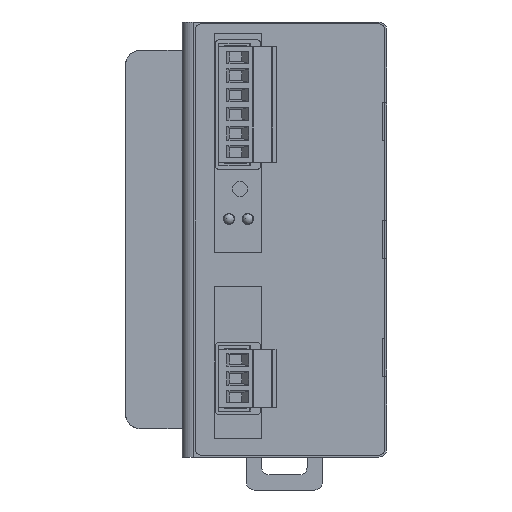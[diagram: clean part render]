
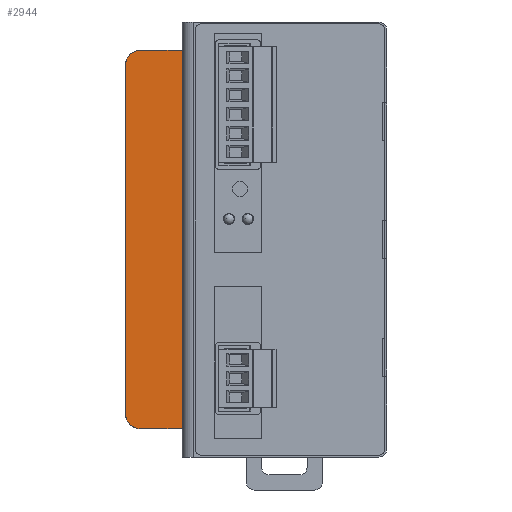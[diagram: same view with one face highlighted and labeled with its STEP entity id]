
A CAD part, left-side view. The second image highlights one B-rep face of the part: STEP entity #2944.
In plain terms, the highlighted planar face has unit normal (-1, 0, 0).
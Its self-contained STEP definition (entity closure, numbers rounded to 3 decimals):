
#2944 = ADVANCED_FACE ( 'NONE', ( #24918 ), #49078, .F. ) ;
#3006 = VERTEX_POINT ( 'NONE', #55120 ) ;
#8700 = EDGE_LOOP ( 'NONE', ( #116552, #80678, #84547, #106921, #20948, #27807 ) ) ;
#11107 = LINE ( 'NONE', #85096, #14008 ) ;
#14008 = VECTOR ( 'NONE', #94401, 1000. ) ;
#15684 = CARTESIAN_POINT ( 'NONE',  ( -55., 27., 50. ) ) ;
#18908 = EDGE_CURVE ( 'NONE', #54289, #20113, #23564, .T. ) ;
#20113 = VERTEX_POINT ( 'NONE', #88161 ) ;
#20948 = ORIENTED_EDGE ( 'NONE', *, *, #65488, .F. ) ;
#23564 = CIRCLE ( 'NONE', #69814, 4. ) ;
#24918 = FACE_OUTER_BOUND ( 'NONE', #8700, .T. ) ;
#27772 = CARTESIAN_POINT ( 'NONE',  ( -55., 42., -50. ) ) ;
#27807 = ORIENTED_EDGE ( 'NONE', *, *, #18908, .F. ) ;
#35812 = DIRECTION ( 'NONE',  ( 0., -1., 0. ) ) ;
#35915 = DIRECTION ( 'NONE',  ( 1., 0., 0. ) ) ;
#36069 = CARTESIAN_POINT ( 'NONE',  ( -55., 38., -46. ) ) ;
#37097 = DIRECTION ( 'NONE',  ( 0., -1., 0. ) ) ;
#38945 = LINE ( 'NONE', #102117, #109256 ) ;
#39995 = AXIS2_PLACEMENT_3D ( 'NONE', #50291, #50136, #50431 ) ;
#43335 = VERTEX_POINT ( 'NONE', #48060 ) ;
#44007 = DIRECTION ( 'NONE',  ( 0., 0., -1. ) ) ;
#45196 = VECTOR ( 'NONE', #37097, 1000. ) ;
#48060 = CARTESIAN_POINT ( 'NONE',  ( -55., 27., -50. ) ) ;
#49078 = PLANE ( 'NONE',  #39995 ) ;
#50136 = DIRECTION ( 'NONE',  ( 1., 0., 0. ) ) ;
#50291 = CARTESIAN_POINT ( 'NONE',  ( -55., 42., -50. ) ) ;
#50431 = DIRECTION ( 'NONE',  ( 0., 1., 0. ) ) ;
#54289 = VERTEX_POINT ( 'NONE', #102653 ) ;
#54973 = DIRECTION ( 'NONE',  ( 1., 0., 0. ) ) ;
#55120 = CARTESIAN_POINT ( 'NONE',  ( -55., 27., 50. ) ) ;
#56736 = LINE ( 'NONE', #27772, #45196 ) ;
#65488 = EDGE_CURVE ( 'NONE', #20113, #86858, #38945, .T. ) ;
#66303 = VERTEX_POINT ( 'NONE', #99539 ) ;
#66387 = EDGE_CURVE ( 'NONE', #86858, #66303, #107342, .T. ) ;
#68712 = CARTESIAN_POINT ( 'NONE',  ( -55., 42., 46. ) ) ;
#69814 = AXIS2_PLACEMENT_3D ( 'NONE', #36069, #35915, #35812 ) ;
#76763 = LINE ( 'NONE', #15684, #98388 ) ;
#80678 = ORIENTED_EDGE ( 'NONE', *, *, #100690, .F. ) ;
#82452 = AXIS2_PLACEMENT_3D ( 'NONE', #109850, #54973, #118863 ) ;
#83588 = DIRECTION ( 'NONE',  ( 0., 0., 1. ) ) ;
#84547 = ORIENTED_EDGE ( 'NONE', *, *, #99267, .T. ) ;
#85096 = CARTESIAN_POINT ( 'NONE',  ( -55., 42., 50. ) ) ;
#86858 = VERTEX_POINT ( 'NONE', #68712 ) ;
#88161 = CARTESIAN_POINT ( 'NONE',  ( -55., 42., -46. ) ) ;
#94401 = DIRECTION ( 'NONE',  ( 0., 1., 0. ) ) ;
#98388 = VECTOR ( 'NONE', #44007, 1000. ) ;
#99267 = EDGE_CURVE ( 'NONE', #3006, #66303, #11107, .T. ) ;
#99539 = CARTESIAN_POINT ( 'NONE',  ( -55., 38., 50. ) ) ;
#100690 = EDGE_CURVE ( 'NONE', #3006, #43335, #76763, .T. ) ;
#100854 = EDGE_CURVE ( 'NONE', #54289, #43335, #56736, .T. ) ;
#102117 = CARTESIAN_POINT ( 'NONE',  ( -55., 42., -50. ) ) ;
#102653 = CARTESIAN_POINT ( 'NONE',  ( -55., 38., -50. ) ) ;
#106921 = ORIENTED_EDGE ( 'NONE', *, *, #66387, .F. ) ;
#107342 = CIRCLE ( 'NONE', #82452, 4. ) ;
#109256 = VECTOR ( 'NONE', #83588, 1000. ) ;
#109850 = CARTESIAN_POINT ( 'NONE',  ( -55., 38., 46. ) ) ;
#116552 = ORIENTED_EDGE ( 'NONE', *, *, #100854, .T. ) ;
#118863 = DIRECTION ( 'NONE',  ( 0., 1., 0. ) ) ;
